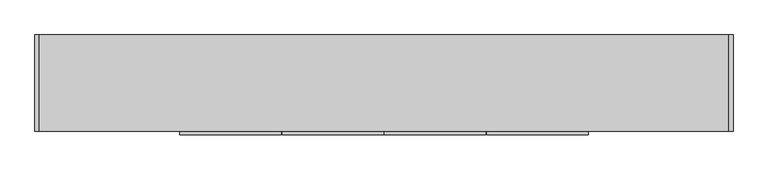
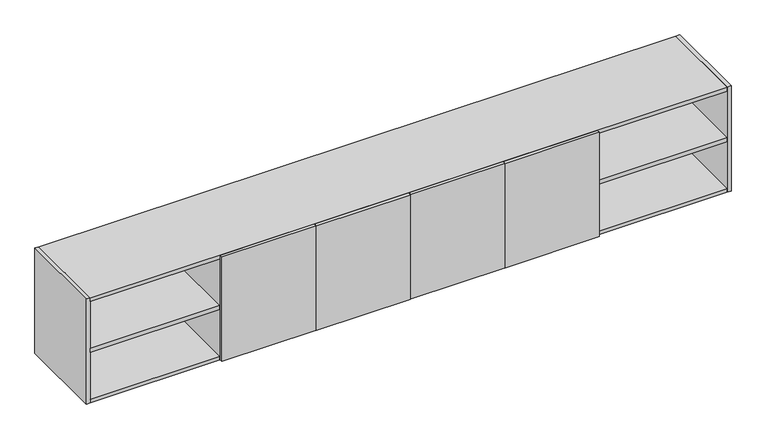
"""IFC4 building model written with IfcOpenShell, lengths in millimetres: furniture geometry, MUEBLES FLOTANTE SALA 3900 : MUEBLES FLOTANTE SALA 3900."""

from ifc_helpers import new_model, si_unit, frame, origin, place, context, project, spatial, polyline, outline, extrude, source, transform, mapped, element, save


def furniture_07055d1c(model_context):
    return source(origin(), model_context, "Body", "SweptSolid", [
        extrude(outline(polyline([(848.5, -415.0), (426.5, -415.0), (426.5, -400.0), (848.5, -400.0), (848.5, -415.0)])), frame((0.0, 0.0, 101.5), z_axis=(0.0, 0.0, 1.0), x_axis=(1.0, 0.0, 0.0)), (0.0, 0.0, 1.0), 497.0),
        extrude(outline(polyline([(423.5, -415.0), (1.5, -415.0), (1.5, -400.0), (423.5, -400.0), (423.5, -415.0)])), frame((0.0, 0.0, 101.5), z_axis=(0.0, 0.0, 1.0), x_axis=(1.0, 0.0, 0.0)), (0.0, 0.0, 1.0), 497.0),
        extrude(outline(polyline([(-1.5, -415.0), (-423.5, -415.0), (-423.5, -400.0), (-1.5, -400.0), (-1.5, -415.0)])), frame((0.0, 0.0, 101.5), z_axis=(0.0, 0.0, 1.0), x_axis=(1.0, 0.0, 0.0)), (0.0, 0.0, 1.0), 497.0),
        extrude(outline(polyline([(-426.5, -415.0), (-848.5, -415.0), (-848.5, -400.0), (-426.5, -400.0), (-426.5, -415.0)])), frame((0.0, 0.0, 101.5), z_axis=(0.0, 0.0, 1.0), x_axis=(1.0, 0.0, 0.0)), (0.0, 0.0, 1.0), 497.0),
        extrude(outline(polyline([(1432.0, -400.0), (850.0, -400.0), (850.0, 0.0), (1432.0, 0.0), (1432.0, -400.0)])), frame((0.0, 0.0, 341.0), z_axis=(0.0, 0.0, 1.0), x_axis=(1.0, 0.0, 0.0)), (0.0, 0.0, 1.0), 18.0),
        extrude(outline(polyline([(1450.0, -400.0), (1432.0, -400.0), (1432.0, 0.0), (1450.0, 0.0), (1450.0, -400.0)])), frame((0.0, 0.0, 100.0), z_axis=(0.0, 0.0, 1.0), x_axis=(1.0, 0.0, 0.0)), (0.0, 0.0, 1.0), 500.0),
        extrude(outline(polyline([(1432.0, -400.0), (850.0, -400.0), (850.0, 0.0), (1432.0, 0.0), (1432.0, -400.0)])), frame((0.0, 0.0, 100.0), z_axis=(0.0, 0.0, 1.0), x_axis=(1.0, 0.0, 0.0)), (0.0, 0.0, 1.0), 18.0),
        extrude(outline(polyline([(100.0, -850.0), (100.0, 850.0), (582.0, 850.0), (582.0, 1432.0), (600.0, 1432.0), (600.0, -1432.0), (582.0, -1432.0), (582.0, -850.0), (100.0, -850.0)])), frame((0.0, -400.0, 0.0), z_axis=(0.0, 1.0, 0.0), x_axis=(0.0, 0.0, 1.0)), (0.0, 0.0, 1.0), 400.0),
        extrude(outline(polyline([(-850.0, -400.0), (-1432.0, -400.0), (-1432.0, 0.0), (-850.0, 0.0), (-850.0, -400.0)])), frame((0.0, 0.0, 341.0), z_axis=(0.0, 0.0, 1.0), x_axis=(1.0, 0.0, 0.0)), (0.0, 0.0, 1.0), 18.0),
        extrude(outline(polyline([(-1432.0, -400.0), (-1450.0, -400.0), (-1450.0, 0.0), (-1432.0, 0.0), (-1432.0, -400.0)])), frame((0.0, 0.0, 100.0), z_axis=(0.0, 0.0, 1.0), x_axis=(1.0, 0.0, 0.0)), (0.0, 0.0, 1.0), 500.0),
        extrude(outline(polyline([(-850.0, -400.0), (-1432.0, -400.0), (-1432.0, 0.0), (-850.0, 0.0), (-850.0, -400.0)])), frame((0.0, 0.0, 100.0), z_axis=(0.0, 0.0, 1.0), x_axis=(1.0, 0.0, 0.0)), (0.0, 0.0, 1.0), 18.0),
    ])


if __name__ == "__main__":
    model = new_model("IFC4")
    model_context = context("Model", 3, world=origin())
    ifc_project = project(units=[si_unit("LENGTHUNIT", "METRE", prefix="MILLI")], contexts=[model_context])
    site = spatial("IfcSite", under=ifc_project)
    building = spatial("IfcBuilding", under=site)
    placement = place(None, origin())
    furniture_shape = furniture_07055d1c(model_context)
    element("IfcFurniture", 1, ObjectType="MUEBLES FLOTANTE SALA 3900 : MUEBLES FLOTANTE SALA 3900", at=placement, inside=building, context=model_context, shape_type="MappedRepresentation", body=[
        mapped(furniture_shape, transform((0.0, 0.0, 0.0), x_axis=(1.0, 0.0, 0.0), y_axis=(0.0, 1.0, 0.0), z_axis=(0.0, 0.0, 1.0))),
    ])
    save(model, "model.ifc")
